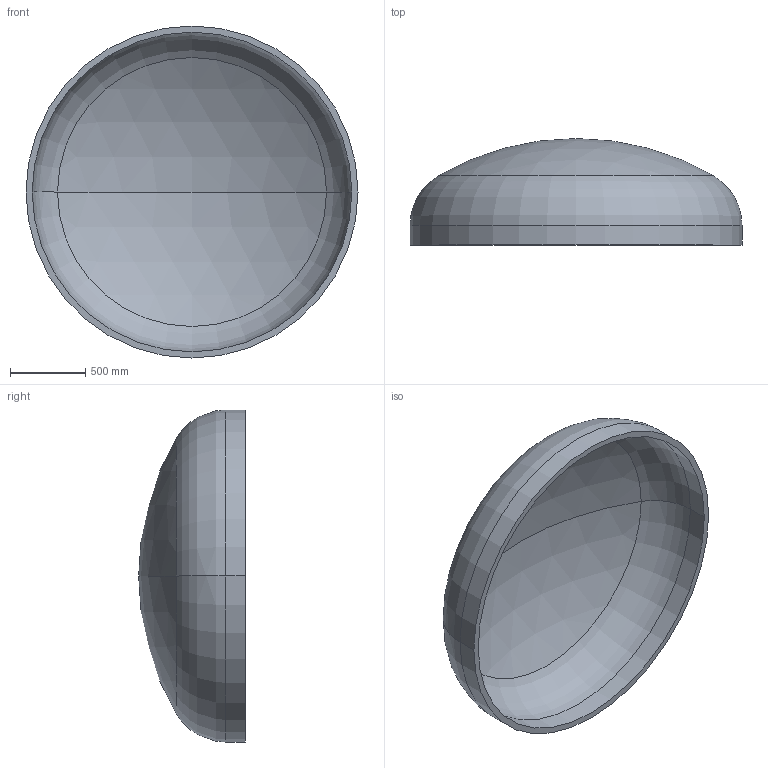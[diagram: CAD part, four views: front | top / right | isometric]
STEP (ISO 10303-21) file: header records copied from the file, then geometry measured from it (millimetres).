
FILE_DESCRIPTION (( 'STEP AP203' ), '1' );
FILE_NAME ('DIN 28013 Korbbogenform_-_Boden DIN 28013 - 2200 x 130 - I - s=41.step', '2016-07-01T14:35:39', ( '' ), ( '' ), 'SwSTEP 2.0', 'SolidWorks 2013', '' );
FILE_SCHEMA (( 'CONFIG_CONTROL_DESIGN' ));
Length unit declared in the file: millimetre
Products named in the file (1): DIN 28013 Korbbogenform_-_Boden DIN 28013 - 2200 x 130 - I - s=41
Bounding box: 2200 x 706.48 x 2200 mm (x, y, z)
Volume: 246919406.8 mm3; surface area: 12326456.5 mm2
Topology: 1 solids, 1 shells, 13 faces, 24 edges, 14 vertices
Faces by surface type: torus 4, cylinder 4, sphere 4, plane 1
Entity records: 407 total; most frequent: DIRECTION 72, CARTESIAN_POINT 52, ORIENTED_EDGE 48, AXIS2_PLACEMENT_3D 34, EDGE_CURVE 24, CIRCLE 20, VERTEX_POINT 14, EDGE_LOOP 14
